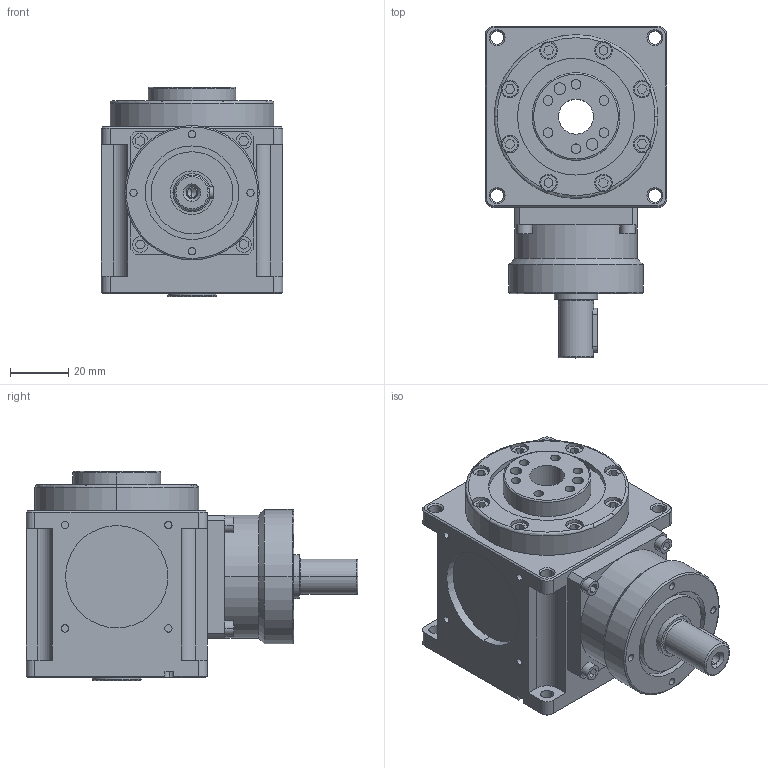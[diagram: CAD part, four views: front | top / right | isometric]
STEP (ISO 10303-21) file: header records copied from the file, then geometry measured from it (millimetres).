
FILE_DESCRIPTION (( 'STEP AP214' ), '1' );
FILE_NAME ('CCT062A-002-RF.STEP', '2025-05-19T06:15:41', ( '微软用户' ), ( '微软中国' ), 'SwSTEP 2.0', 'SolidWorks 2024', '' );
FILE_SCHEMA (( 'AUTOMOTIVE_DESIGN' ));
Length unit declared in the file: millimetre
Products named in the file (1): CCT062A-002-RF
Bounding box: 62 x 113.5 x 71.5 mm (x, y, z)
Volume: 254714 mm3; surface area: 37557.6 mm2
Topology: 1 solids, 1 shells, 397 faces, 939 edges, 605 vertices
Faces by surface type: plane 193, cylinder 160, cone 30, torus 14
Entity records: 11664 total; most frequent: CARTESIAN_POINT 2108, DIRECTION 2107, ORIENTED_EDGE 1874, EDGE_CURVE 937, AXIS2_PLACEMENT_3D 788, VERTEX_POINT 605, LINE 531, VECTOR 531
